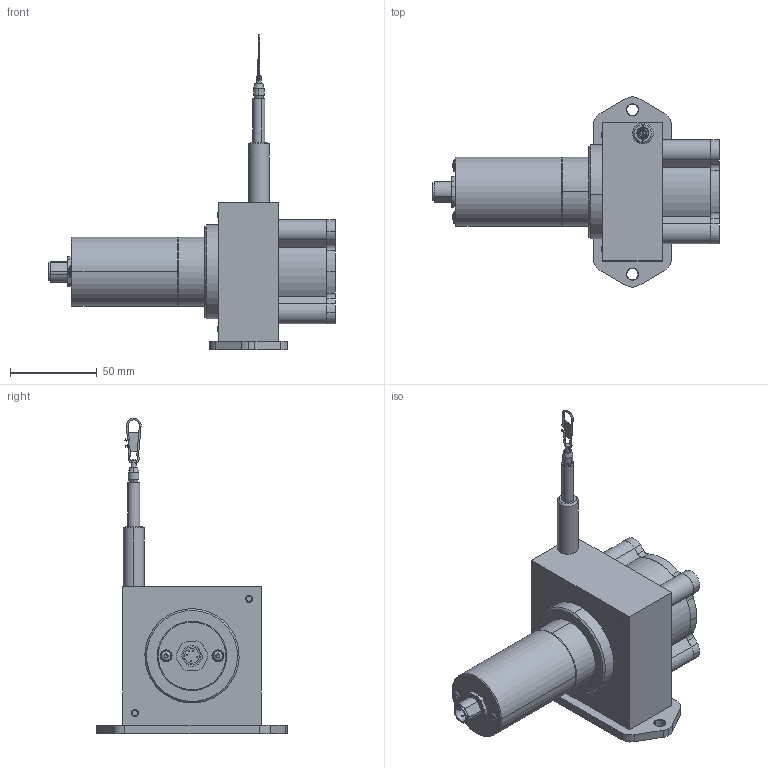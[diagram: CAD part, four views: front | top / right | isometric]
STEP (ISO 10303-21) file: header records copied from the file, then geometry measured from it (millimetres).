
FILE_DESCRIPTION (( 'STEP AP214' ), '1' );
FILE_NAME ('D8.3B1.0300.A223.0000.STEP', '2010-11-25T07:57:15', ( 'admin' ), ( 'Fritz Kübler GmbH' ), 'SwSTEP 2.0', 'SolidWorks 2009', '' );
FILE_SCHEMA (( 'AUTOMOTIVE_DESIGN' ));
Length unit declared in the file: millimetre
Products named in the file (1): D8.3B1.0300.A223.0000
Bounding box: 165.73 x 110 x 182.32 mm (x, y, z)
Surface area: 62366.4 mm2 (no closed solid volume)
Topology: 0 solids, 29 shells, 365 faces, 1084 edges, 729 vertices
Faces by surface type: plane 175, cylinder 114, cone 40, torus 27, bspline 6, sphere 3
Entity records: 19977 total; most frequent: CARTESIAN_POINT 6446, ORIENTED_EDGE 1930, DIRECTION 1919, EDGE_CURVE 1070, VERTEX_POINT 727, AXIS2_PLACEMENT_3D 698, VECTOR 523, LINE 523
